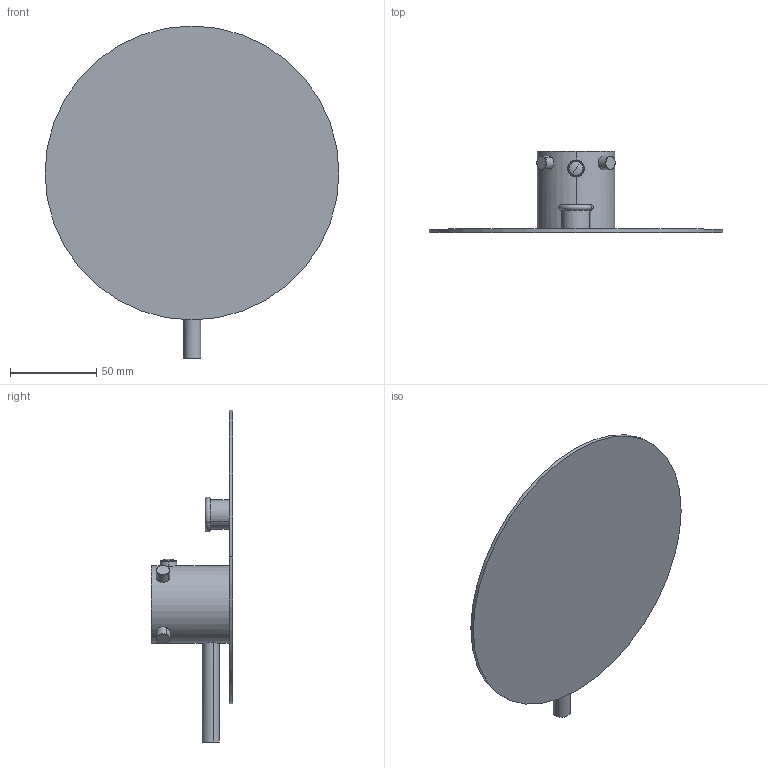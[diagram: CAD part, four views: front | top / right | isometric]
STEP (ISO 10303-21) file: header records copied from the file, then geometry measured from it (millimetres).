
FILE_DESCRIPTION (( 'STEP AP214' ), '1' );
FILE_NAME ('13120310 x architetti.STEP', '2024-09-25T08:14:20', ( '' ), ( '' ), 'SwSTEP 2.0', 'SolidWorks 2020', '' );
FILE_SCHEMA (( 'AUTOMOTIVE_DESIGN' ));
Length unit declared in the file: millimetre
Products named in the file (1): 13120310 x architetti
Bounding box: 170 x 47.1 x 192 mm (x, y, z)
Volume: 125238.9 mm3; surface area: 57670.2 mm2
Topology: 1 solids, 9 shells, 96 faces, 215 edges, 130 vertices
Faces by surface type: cylinder 51, plane 19, torus 12, cone 10, bspline 4
Entity records: 4280 total; most frequent: CARTESIAN_POINT 1272, DIRECTION 439, ORIENTED_EDGE 406, EDGE_CURVE 203, AXIS2_PLACEMENT_3D 186, VERTEX_POINT 130, EDGE_LOOP 107, ADVANCED_FACE 96
